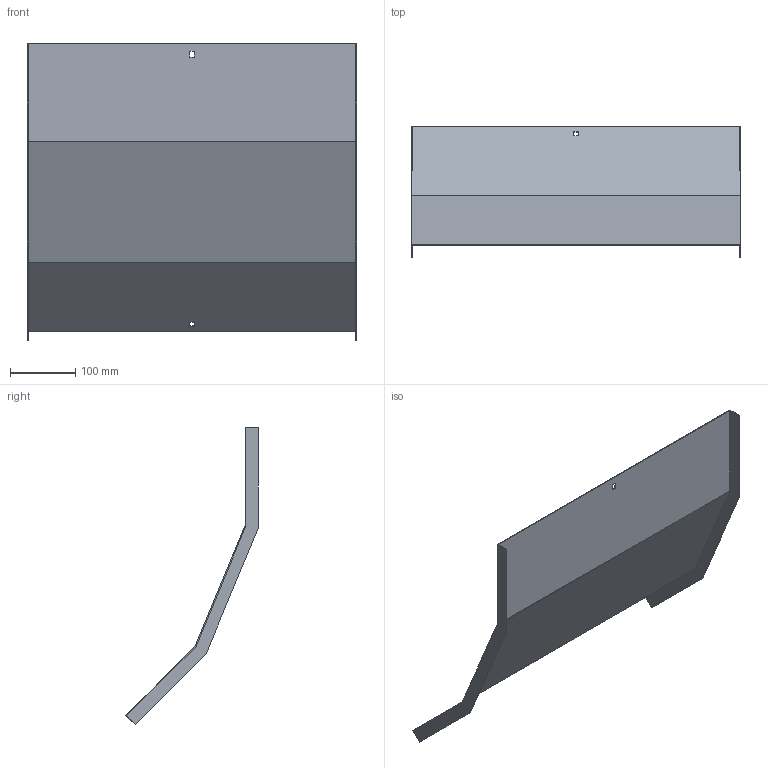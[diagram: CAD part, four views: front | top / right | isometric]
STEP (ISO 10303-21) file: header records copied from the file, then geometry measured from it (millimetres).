
FILE_DESCRIPTION (( 'STEP AP214' ), '1' );
FILE_NAME ('B2X31N5R500X.step', '2025-03-20T09:42:50', ( '' ), ( '' ), 'SwSTEP 2.0', 'SolidWorks 2023', '' );
FILE_SCHEMA (( 'AUTOMOTIVE_DESIGN' ));
Length unit declared in the file: millimetre
Products named in the file (1): B2X31N5R500X
Bounding box: 503 x 201.89 x 453.26 mm (x, y, z)
Volume: 404210.4 mm3; surface area: 542200.5 mm2
Topology: 1 solids, 1 shells, 26 faces, 72 edges, 48 vertices
Faces by surface type: plane 26
Entity records: 847 total; most frequent: CARTESIAN_POINT 147, ORIENTED_EDGE 144, DIRECTION 126, EDGE_CURVE 72, LINE 72, VECTOR 72, VERTEX_POINT 48, EDGE_LOOP 30
